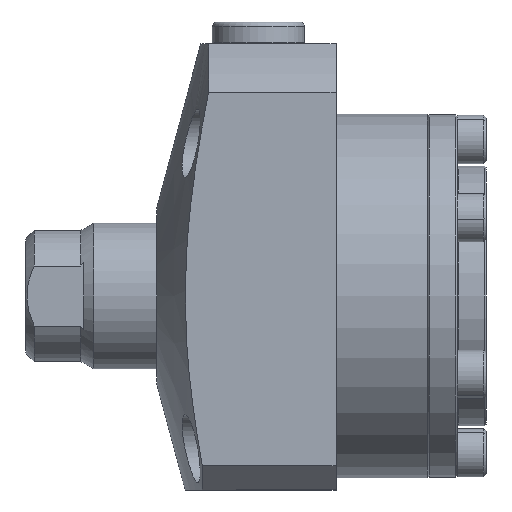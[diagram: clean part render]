
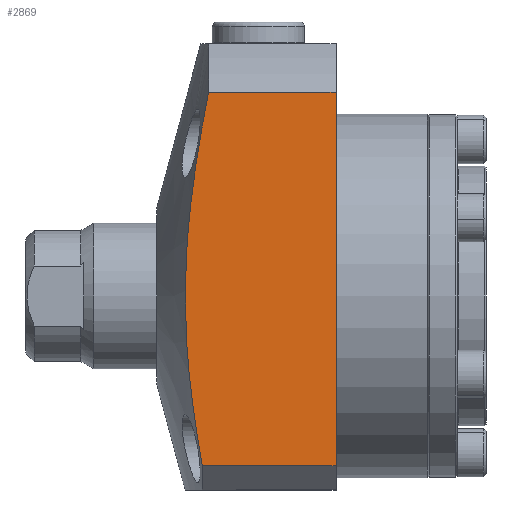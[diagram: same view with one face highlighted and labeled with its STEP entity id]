
A CAD part, left-side view. The second image highlights one B-rep face of the part: STEP entity #2869.
In plain terms, the highlighted planar face has unit normal (-1, 0, 0).
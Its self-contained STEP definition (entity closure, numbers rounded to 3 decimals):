
#879 = CARTESIAN_POINT ( 'NONE',  ( -40., 27.581, -35. ) ) ;
#888 = CARTESIAN_POINT ( 'NONE',  ( -40., 28.145, -31.807 ) ) ;
#892 = CARTESIAN_POINT ( 'NONE',  ( -40., 28.667, -28.602 ) ) ;
#893 = CARTESIAN_POINT ( 'NONE',  ( -40., 29.588, -22.191 ) ) ;
#894 = CARTESIAN_POINT ( 'NONE',  ( -40., 29.986, -18.983 ) ) ;
#895 = CARTESIAN_POINT ( 'NONE',  ( -40., 30.617, -12.566 ) ) ;
#896 = CARTESIAN_POINT ( 'NONE',  ( -40., 30.849, -9.355 ) ) ;
#897 = CARTESIAN_POINT ( 'NONE',  ( -40., 31.11, -2.93 ) ) ;
#898 = CARTESIAN_POINT ( 'NONE',  ( -40., 31.139, 0.285 ) ) ;
#899 = CARTESIAN_POINT ( 'NONE',  ( -40., 30.989, 6.719 ) ) ;
#900 = CARTESIAN_POINT ( 'NONE',  ( -40., 30.81, 9.938 ) ) ;
#901 = CARTESIAN_POINT ( 'NONE',  ( -40., 30.405, 14.77 ) ) ;
#902 = CARTESIAN_POINT ( 'NONE',  ( -40., 30.248, 16.381 ) ) ;
#903 = CARTESIAN_POINT ( 'NONE',  ( -40., 29.894, 19.604 ) ) ;
#904 = CARTESIAN_POINT ( 'NONE',  ( -40., 29.696, 21.217 ) ) ;
#905 = CARTESIAN_POINT ( 'NONE',  ( -40., 29.055, 26.047 ) ) ;
#906 = CARTESIAN_POINT ( 'NONE',  ( -40., 28.562, 29.252 ) ) ;
#907 = CARTESIAN_POINT ( 'NONE',  ( -40., 27.483, 35.641 ) ) ;
#908 = CARTESIAN_POINT ( 'NONE',  ( -40., 26.898, 38.824 ) ) ;
#909 = CARTESIAN_POINT ( 'NONE',  ( -40., 26.282, 42. ) ) ;
#1751 = CARTESIAN_POINT ( 'NONE',  ( -40., 37., 52. ) ) ;
#1759 = FACE_OUTER_BOUND ( 'NONE', #4588, .T. ) ;
#1760 = PLANE ( 'NONE',  #5006 ) ;
#1762 = DIRECTION ( 'NONE',  ( 1., 0., 0. ) ) ;
#1763 = DIRECTION ( 'NONE',  ( 0., 0., -1. ) ) ;
#1829 = LINE ( 'NONE', #1873, #5039 ) ;
#1853 = LINE ( 'NONE', #1871, #5033 ) ;
#1871 = CARTESIAN_POINT ( 'NONE',  ( -40., 37., -35. ) ) ;
#1872 = DIRECTION ( 'NONE',  ( 0., -1., 0. ) ) ;
#1873 = CARTESIAN_POINT ( 'NONE',  ( -40., 0., -40. ) ) ;
#1874 = DIRECTION ( 'NONE',  ( 0., 0., -1. ) ) ;
#1875 = LINE ( 'NONE', #1876, #5041 ) ;
#1876 = CARTESIAN_POINT ( 'NONE',  ( -40., 0., 42. ) ) ;
#1877 = DIRECTION ( 'NONE',  ( 0., 1., 0. ) ) ;
#1935 = EDGE_CURVE ( 'NONE', #4399, #4411, #4844, .T. ) ;
#2124 = ORIENTED_EDGE ( 'NONE', *, *, #1935, .F. ) ;
#2125 = ORIENTED_EDGE ( 'NONE', *, *, #3556, .T. ) ;
#2126 = ORIENTED_EDGE ( 'NONE', *, *, #3558, .F. ) ;
#2127 = ORIENTED_EDGE ( 'NONE', *, *, #3559, .T. ) ;
#2869 = ADVANCED_FACE ( 'NONE', ( #1759 ), #1760, .F. ) ;
#3097 = CARTESIAN_POINT ( 'NONE',  ( -40., 0., 42. ) ) ;
#3100 = CARTESIAN_POINT ( 'NONE',  ( -40., 0., -35. ) ) ;
#3205 = CARTESIAN_POINT ( 'NONE',  ( -40., 27.581, -35. ) ) ;
#3218 = CARTESIAN_POINT ( 'NONE',  ( -40., 26.282, 42. ) ) ;
#3556 = EDGE_CURVE ( 'NONE', #4399, #4292, #1853, .T. ) ;
#3558 = EDGE_CURVE ( 'NONE', #4289, #4292, #1829, .T. ) ;
#3559 = EDGE_CURVE ( 'NONE', #4289, #4411, #1875, .T. ) ;
#4289 = VERTEX_POINT ( 'NONE', #3097 ) ;
#4292 = VERTEX_POINT ( 'NONE', #3100 ) ;
#4399 = VERTEX_POINT ( 'NONE', #3205 ) ;
#4411 = VERTEX_POINT ( 'NONE', #3218 ) ;
#4588 = EDGE_LOOP ( 'NONE', ( #2124, #2125, #2126, #2127 ) ) ;
#4844 = B_SPLINE_CURVE_WITH_KNOTS ( 'NONE', 3,
 ( #879, #888, #892, #893, #894, #895, #896, #897, #898, #899, #900, #901, #902, #903, #904, #905, #906, #907, #908, #909 ),
 .UNSPECIFIED., .F., .F.,
 ( 4, 2, 2, 2, 2, 2, 2, 2, 2, 4 ),
 ( 0.044, 0.054, 0.064, 0.074, 0.083, 0.093, 0.098, 0.103, 0.112, 0.122 ),
 .UNSPECIFIED. ) ;
#5006 = AXIS2_PLACEMENT_3D ( 'NONE', #1751, #1762, #1763 ) ;
#5033 = VECTOR ( 'NONE', #1872, 1000. ) ;
#5039 = VECTOR ( 'NONE', #1874, 1000. ) ;
#5041 = VECTOR ( 'NONE', #1877, 1000. ) ;
